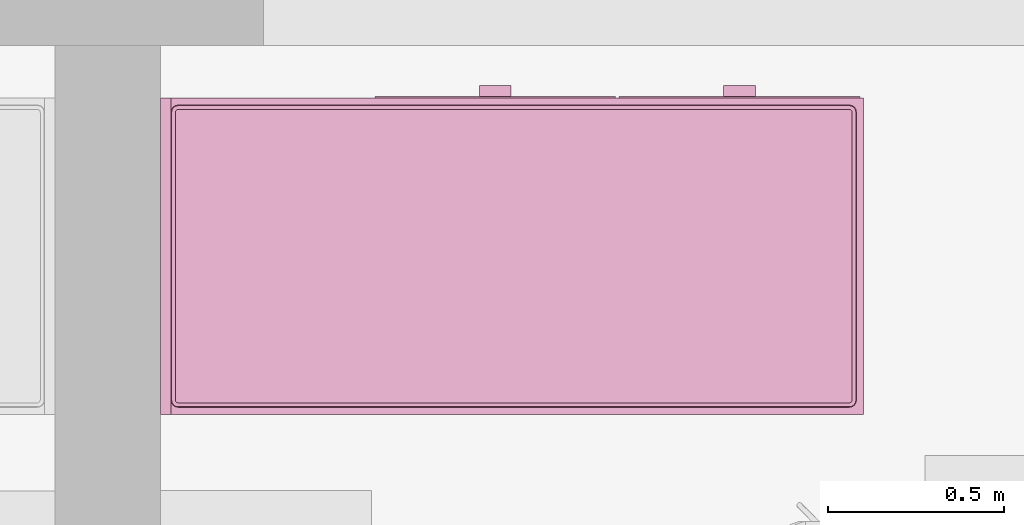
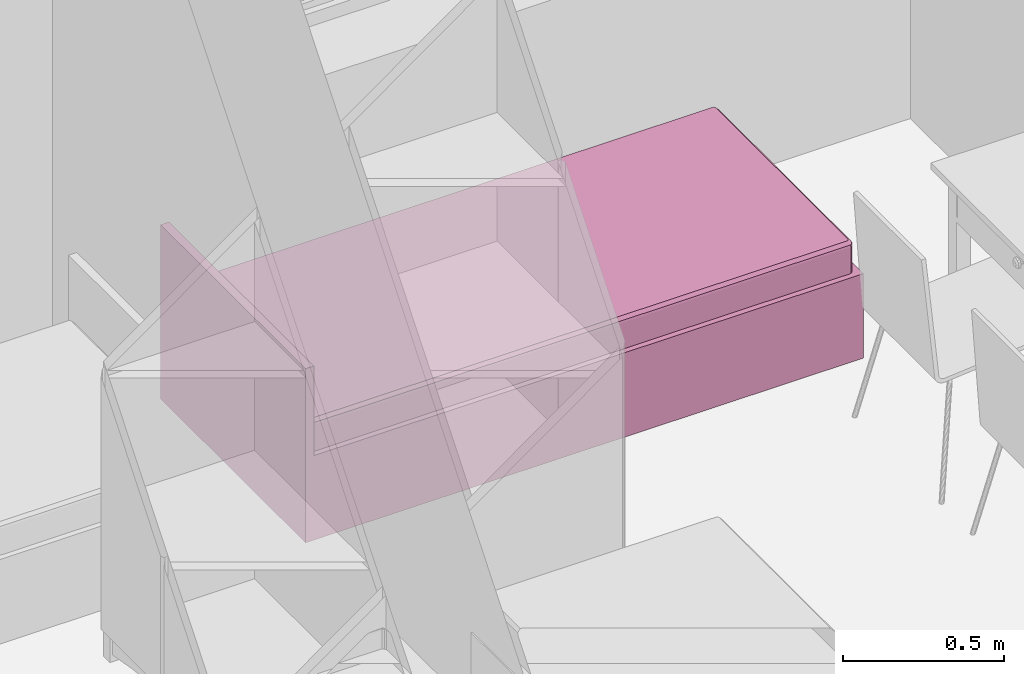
# One storey, part 97 of 165: 1 furnishing.
"""IFC2X3 building model written with IfcOpenShell, lengths in millimetres."""

from ifc_helpers import new_model, entity, si_unit, converted_unit, money_unit, direction, frame, origin_with_axes, place, context, subcontext, project, spatial, faceted_brep, source, transform, mapped, material, material_list, type_object, element, save


model = new_model("IFC2X3")

# Units and contexts
model_context = context("Model", 3, precision=1e-05, world=origin_with_axes(), true_north=direction((0.0, 1.0)))
body_context = subcontext(model_context, "Body", "Model", "MODEL_VIEW")
ifc_project = project(units=[si_unit("LENGTHUNIT", "METRE", prefix="MILLI"), si_unit("AREAUNIT", "SQUARE_METRE"), si_unit("VOLUMEUNIT", "CUBIC_METRE"), converted_unit("PLANEANGLEUNIT", "DEGREE", entity("IfcPlaneAngleMeasure", 0.0174532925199), si_unit("PLANEANGLEUNIT", "RADIAN"), dimensions=[0, 0, 0, 0, 0, 0, 0]), si_unit("SOLIDANGLEUNIT", "STERADIAN"), money_unit("USD"), converted_unit("TIMEUNIT", "Year", entity("IfcTimeMeasure", 31556926.0), si_unit("TIMEUNIT", "SECOND"), dimensions=[0, 0, 0, 0, 0, 0, 0]), si_unit("MASSUNIT", "GRAM"), si_unit("THERMODYNAMICTEMPERATUREUNIT", "DEGREE_CELSIUS"), si_unit("LUMINOUSINTENSITYUNIT", "LUMEN")], contexts=[model_context])

# Site, building, storey
site_placement = place(None, origin_with_axes())
site = spatial("IfcSite", under=ifc_project, at=site_placement, Name="Site", CompositionType="ELEMENT")
building_placement = place(site_placement, origin_with_axes())
building = spatial("IfcBuilding", under=site, at=building_placement, Name="Building", CompositionType="ELEMENT")
storey_placement = place(building_placement, frame((0.0, 0.0, 6300.0), z_axis=(0.0, 0.0, 1.0), x_axis=(1.0, 0.0, 0.0)))
storey = spatial("IfcBuildingStorey", under=building, at=storey_placement, Name="4KORRUS", CompositionType="ELEMENT", Elevation=6300.0)

# Furnishing
ifc_material = material(Name="Background")
ifc_material_list = material_list([ifc_material])
furnishing_element_type = type_object("IfcFurnishingElementType", Name="Bed 19")
shared_shape = source(origin_with_axes(), body_context, "Body", "Brep", [
    faceted_brep([(900.0, 1970.0, 0.0), (0.0, 1970.0, 0.0), (0.0, 2000.0, 0.0), (900.0, 2000.0, 0.0), (900.0, 1970.0, 660.0), (0.0, 1970.0, 660.0), (0.0, 2000.0, 660.0), (900.0, 2000.0, 660.0)], [[[0, 1, 2, 3]], [[1, 0, 4, 5]], [[2, 1, 5, 6]], [[3, 2, 6, 7]], [[0, 3, 7, 4]], [[5, 4, 7, 6]]]),
    faceted_brep([(900.0, 0.0, 0.0), (0.0, 0.0, 0.0), (0.0, 1970.0, 0.0), (900.0, 1970.0, 0.0), (900.0, 0.0, 320.0), (0.0, 0.0, 320.0), (0.0, 1970.0, 320.0), (900.0, 1970.0, 320.0)], [[[0, 1, 2, 3]], [[1, 0, 4, 5]], [[2, 1, 5, 6]], [[3, 2, 6, 7]], [[0, 3, 7, 4]], [[5, 4, 7, 6]]]),
    faceted_brep([(905.0, 10.0, 30.0), (900.0, 10.0, 30.0), (900.0, 695.0, 30.0), (905.0, 695.0, 30.0), (905.0, 10.0, 290.0), (900.0, 10.0, 290.0), (900.0, 695.0, 290.0), (905.0, 695.0, 290.0)], [[[0, 1, 2, 3]], [[1, 0, 4, 5]], [[2, 1, 5, 6]], [[3, 2, 6, 7]], [[0, 3, 7, 4]], [[5, 4, 7, 6]]]),
    faceted_brep([(935.0, 307.5, 150.0), (905.0, 307.5, 150.0), (905.0, 397.5, 150.0), (935.0, 397.5, 150.0), (935.0, 307.5, 170.0), (905.0, 307.5, 170.0), (905.0, 397.5, 170.0), (935.0, 397.5, 170.0)], [[[0, 1, 2, 3]], [[1, 0, 4, 5]], [[2, 1, 5, 6]], [[3, 2, 6, 7]], [[0, 3, 7, 4]], [[5, 4, 7, 6]]]),
    faceted_brep([(905.0, 705.0, 30.0), (900.0, 705.0, 30.0), (900.0, 1390.0, 30.0), (905.0, 1390.0, 30.0), (905.0, 705.0, 290.0), (900.0, 705.0, 290.0), (900.0, 1390.0, 290.0), (905.0, 1390.0, 290.0)], [[[0, 1, 2, 3]], [[1, 0, 4, 5]], [[2, 1, 5, 6]], [[3, 2, 6, 7]], [[0, 3, 7, 4]], [[5, 4, 7, 6]]]),
    faceted_brep([(935.0, 1002.5, 150.0), (905.0, 1002.5, 150.0), (905.0, 1092.5, 150.0), (935.0, 1092.5, 150.0), (935.0, 1002.5, 170.0), (905.0, 1002.5, 170.0), (905.0, 1092.5, 170.0), (935.0, 1092.5, 170.0)], [[[0, 1, 2, 3]], [[1, 0, 4, 5]], [[2, 1, 5, 6]], [[3, 2, 6, 7]], [[0, 3, 7, 4]], [[5, 4, 7, 6]]]),
    faceted_brep([(20.0, 40.0, 350.0), (20.0, 1950.0, 350.0), (21.522, 1957.654, 350.0), (25.858, 1964.142, 350.0), (32.346, 1968.478, 350.0), (40.0, 1970.0, 350.0), (860.0, 1970.0, 350.0), (867.654, 1968.478, 350.0), (874.142, 1964.142, 350.0), (878.478, 1957.654, 350.0), (880.0, 1950.0, 350.0), (880.0, 40.0, 350.0), (878.478, 32.346, 350.0), (874.142, 25.858, 350.0), (867.654, 21.522, 350.0), (860.0, 20.0, 350.0), (40.0, 20.0, 350.0), (32.346, 21.522, 350.0), (25.858, 25.858, 350.0), (21.522, 32.346, 350.0), (20.0, 40.0, 420.0), (20.0, 1950.0, 420.0), (21.522, 1957.654, 420.0), (25.858, 1964.142, 420.0), (32.346, 1968.478, 420.0), (40.0, 1970.0, 420.0), (860.0, 1970.0, 420.0), (867.654, 1968.478, 420.0), (874.142, 1964.142, 420.0), (878.478, 1957.654, 420.0), (880.0, 1950.0, 420.0), (880.0, 40.0, 420.0), (878.478, 32.346, 420.0), (874.142, 25.858, 420.0), (867.654, 21.522, 420.0), (860.0, 20.0, 420.0), (40.0, 20.0, 420.0), (32.346, 21.522, 420.0), (25.858, 25.858, 420.0), (21.522, 32.346, 420.0), (21.522, 40.15, 427.654), (21.522, 1949.85, 427.654), (22.956, 1957.06, 427.654), (26.955, 1963.045, 427.654), (32.94, 1967.044, 427.654), (40.15, 1968.478, 427.654), (859.85, 1968.478, 427.654), (867.06, 1967.044, 427.654), (873.045, 1963.045, 427.654), (877.044, 1957.06, 427.654), (878.478, 1949.85, 427.654), (878.478, 40.15, 427.654), (877.044, 32.94, 427.654), (873.045, 26.955, 427.654), (867.06, 22.956, 427.654), (859.85, 21.522, 427.654), (40.15, 21.522, 427.654), (32.94, 22.956, 427.654), (26.955, 26.955, 427.654), (22.956, 32.94, 427.654), (32.346, 41.216, 438.478), (32.346, 1948.784, 438.478), (33.152, 1952.836, 438.478), (34.759, 1955.241, 438.478), (37.164, 1956.848, 438.478), (41.216, 1957.654, 438.478), (858.784, 1957.654, 438.478), (862.836, 1956.848, 438.478), (865.241, 1955.241, 438.478), (866.848, 1952.836, 438.478), (867.654, 1948.784, 438.478), (867.654, 41.216, 438.478), (866.848, 37.164, 438.478), (865.241, 34.759, 438.478), (862.836, 33.152, 438.478), (858.784, 32.346, 438.478), (41.216, 32.346, 438.478), (37.164, 33.152, 438.478), (34.759, 34.759, 438.478), (33.152, 37.164, 438.478), (40.0, 41.97, 440.0), (40.0, 1948.03, 440.0), (40.327, 1949.673, 440.0), (40.0, 1950.0, 439.924), (41.97, 1950.0, 440.0), (858.03, 1950.0, 440.0), (859.673, 1949.673, 440.0), (860.0, 1950.0, 439.924), (860.0, 1948.03, 440.0), (860.0, 41.97, 440.0), (859.673, 40.327, 440.0), (860.0, 40.0, 439.924), (858.03, 40.0, 440.0), (41.97, 40.0, 440.0), (40.327, 40.327, 440.0), (40.0, 40.0, 439.924)], [[[0, 1, 2, 3, 4, 5, 6, 7, 8, 9, 10, 11, 12, 13, 14, 15, 16, 17, 18, 19]], [[1, 0, 20, 21]], [[2, 1, 21, 22]], [[3, 2, 22, 23]], [[4, 3, 23, 24]], [[5, 4, 24, 25]], [[6, 5, 25, 26]], [[7, 6, 26, 27]], [[8, 7, 27, 28]], [[9, 8, 28, 29]], [[10, 9, 29, 30]], [[11, 10, 30, 31]], [[12, 11, 31, 32]], [[13, 12, 32, 33]], [[14, 13, 33, 34]], [[15, 14, 34, 35]], [[16, 15, 35, 36]], [[17, 16, 36, 37]], [[18, 17, 37, 38]], [[19, 18, 38, 39]], [[0, 19, 39, 20]], [[21, 20, 40, 41]], [[22, 21, 41, 42]], [[23, 22, 42, 43]], [[24, 23, 43, 44]], [[25, 24, 44, 45]], [[26, 25, 45, 46]], [[27, 26, 46, 47]], [[28, 27, 47, 48]], [[29, 28, 48, 49]], [[30, 29, 49, 50]], [[31, 30, 50, 51]], [[32, 31, 51, 52]], [[33, 32, 52, 53]], [[34, 33, 53, 54]], [[35, 34, 54, 55]], [[36, 35, 55, 56]], [[37, 36, 56, 57]], [[38, 37, 57, 58]], [[39, 38, 58, 59]], [[20, 39, 59, 40]], [[41, 40, 60, 61]], [[42, 41, 61, 62]], [[43, 42, 62, 63]], [[44, 43, 63, 64]], [[45, 44, 64, 65]], [[46, 45, 65, 66]], [[47, 46, 66, 67]], [[48, 47, 67, 68]], [[49, 48, 68, 69]], [[50, 49, 69, 70]], [[51, 50, 70, 71]], [[52, 51, 71, 72]], [[53, 52, 72, 73]], [[54, 53, 73, 74]], [[55, 54, 74, 75]], [[56, 55, 75, 76]], [[57, 56, 76, 77]], [[58, 57, 77, 78]], [[59, 58, 78, 79]], [[40, 59, 79, 60]], [[61, 60, 80, 81]], [[62, 61, 81, 82, 83]], [[63, 62, 83]], [[64, 63, 83]], [[65, 64, 83, 82, 84]], [[66, 65, 84, 85]], [[67, 66, 85, 86, 87]], [[68, 67, 87]], [[69, 68, 87]], [[70, 69, 87, 86, 88]], [[71, 70, 88, 89]], [[72, 71, 89, 90, 91]], [[73, 72, 91]], [[74, 73, 91]], [[75, 74, 91, 90, 92]], [[76, 75, 92, 93]], [[77, 76, 93, 94, 95]], [[78, 77, 95]], [[79, 78, 95]], [[60, 79, 95, 94, 80]], [[81, 80, 94, 93, 92, 90, 89, 88, 86, 85, 84, 82]]]),
    faceted_brep([(20.0, 40.0, 350.0), (21.522, 32.346, 350.0), (25.858, 25.858, 350.0), (32.346, 21.522, 350.0), (40.0, 20.0, 350.0), (860.0, 20.0, 350.0), (867.654, 21.522, 350.0), (874.142, 25.858, 350.0), (878.478, 32.346, 350.0), (880.0, 40.0, 350.0), (880.0, 1950.0, 350.0), (878.478, 1957.654, 350.0), (874.142, 1964.142, 350.0), (867.654, 1968.478, 350.0), (860.0, 1970.0, 350.0), (40.0, 1970.0, 350.0), (32.346, 1968.478, 350.0), (25.858, 1964.142, 350.0), (21.522, 1957.654, 350.0), (20.0, 1950.0, 350.0), (20.0, 40.0, 320.0), (21.522, 32.346, 320.0), (25.858, 25.858, 320.0), (32.346, 21.522, 320.0), (40.0, 20.0, 320.0), (860.0, 20.0, 320.0), (867.654, 21.522, 320.0), (874.142, 25.858, 320.0), (878.478, 32.346, 320.0), (880.0, 40.0, 320.0), (880.0, 1950.0, 320.0), (878.478, 1957.654, 320.0), (874.142, 1964.142, 320.0), (867.654, 1968.478, 320.0), (860.0, 1970.0, 320.0), (40.0, 1970.0, 320.0), (32.346, 1968.478, 320.0), (25.858, 1964.142, 320.0), (21.522, 1957.654, 320.0), (20.0, 1950.0, 320.0)], [[[0, 1, 2, 3, 4, 5, 6, 7, 8, 9, 10, 11, 12, 13, 14, 15, 16, 17, 18, 19]], [[0, 20, 21, 1]], [[1, 21, 22, 2]], [[2, 22, 23, 3]], [[3, 23, 24, 4]], [[4, 24, 25, 5]], [[5, 25, 26, 6]], [[6, 26, 27, 7]], [[7, 27, 28, 8]], [[8, 28, 29, 9]], [[9, 29, 30, 10]], [[10, 30, 31, 11]], [[11, 31, 32, 12]], [[12, 32, 33, 13]], [[13, 33, 34, 14]], [[14, 34, 35, 15]], [[15, 35, 36, 16]], [[16, 36, 37, 17]], [[17, 37, 38, 18]], [[18, 38, 39, 19]], [[19, 39, 20, 0]], [[20, 39, 38, 37, 36, 35, 34, 33, 32, 31, 30, 29, 28, 27, 26, 25, 24, 23, 22, 21]]]),
])
furnishing_placement = place(storey_placement, frame((-27990.2967033, -6189.6041088, 0.0), z_axis=(0.0, 0.0, 1.0), x_axis=(0.0, 1.0, 0.0)))
element("IfcFurnishingElement", 1, at=furnishing_placement, inside=storey, type_object=furnishing_element_type, material=ifc_material_list, Name="FU - 013", context=body_context, shape_type="MappedRepresentation", body=[
    mapped(shared_shape, transform((0.0, 0.0, 0.0))),
])

save(model, "model.ifc")
